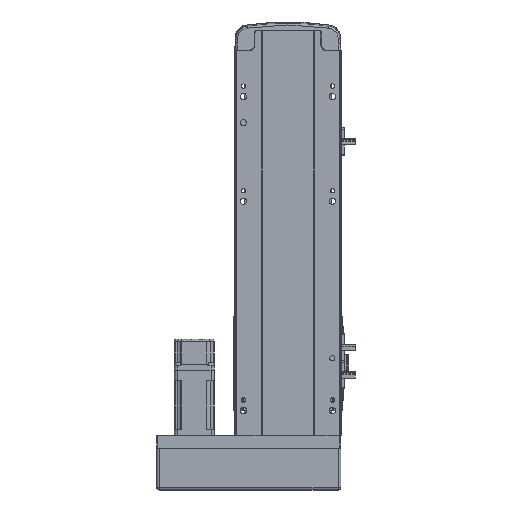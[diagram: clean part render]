
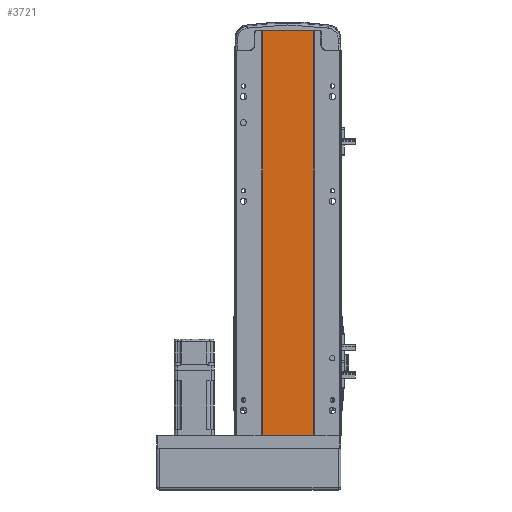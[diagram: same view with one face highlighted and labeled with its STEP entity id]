
A CAD part, front view. The second image highlights one B-rep face of the part: STEP entity #3721.
In plain terms, the highlighted planar face has unit normal (0, -1, 0).
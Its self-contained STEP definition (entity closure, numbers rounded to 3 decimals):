
#853 = CARTESIAN_POINT ( 'NONE',  ( 24.5, 2., 387. ) ) ;
#2167 = ORIENTED_EDGE ( 'NONE', *, *, #10132, .F. ) ;
#3721 = ADVANCED_FACE ( 'NONE', ( #17448 ), #49112, .F. ) ;
#7673 = CARTESIAN_POINT ( 'NONE',  ( 24.5, 2., 387. ) ) ;
#9719 = CARTESIAN_POINT ( 'NONE',  ( -24.5, 2., 387. ) ) ;
#10132 = EDGE_CURVE ( 'NONE', #32474, #38534, #20987, .T. ) ;
#12729 = VERTEX_POINT ( 'NONE', #25394 ) ;
#13832 = DIRECTION ( 'NONE',  ( 0., 1., 0. ) ) ;
#15045 = CARTESIAN_POINT ( 'NONE',  ( -24.5, 2., 387. ) ) ;
#15051 = AXIS2_PLACEMENT_3D ( 'NONE', #40145, #13832, #48523 ) ;
#16355 = DIRECTION ( 'NONE',  ( 0., 0., -1. ) ) ;
#17203 = CARTESIAN_POINT ( 'NONE',  ( -24.5, 2., 387. ) ) ;
#17448 = FACE_OUTER_BOUND ( 'NONE', #50865, .T. ) ;
#18952 = ORIENTED_EDGE ( 'NONE', *, *, #33374, .F. ) ;
#20987 = LINE ( 'NONE', #9719, #25087 ) ;
#22222 = DIRECTION ( 'NONE',  ( 1., 0., 0. ) ) ;
#25087 = VECTOR ( 'NONE', #22222, 1000. ) ;
#25394 = CARTESIAN_POINT ( 'NONE',  ( 24.5, 2., 0. ) ) ;
#26715 = EDGE_CURVE ( 'NONE', #32474, #38078, #45120, .T. ) ;
#30640 = DIRECTION ( 'NONE',  ( 1., 0., 0. ) ) ;
#31205 = VECTOR ( 'NONE', #16355, 1000. ) ;
#32474 = VERTEX_POINT ( 'NONE', #15045 ) ;
#33374 = EDGE_CURVE ( 'NONE', #38534, #12729, #35335, .T. ) ;
#35015 = VECTOR ( 'NONE', #30640, 1000. ) ;
#35335 = LINE ( 'NONE', #7673, #31205 ) ;
#38078 = VERTEX_POINT ( 'NONE', #38544 ) ;
#38534 = VERTEX_POINT ( 'NONE', #853 ) ;
#38544 = CARTESIAN_POINT ( 'NONE',  ( -24.5, 2., 0. ) ) ;
#39262 = DIRECTION ( 'NONE',  ( 0., 0., -1. ) ) ;
#40145 = CARTESIAN_POINT ( 'NONE',  ( 0., 2., 387. ) ) ;
#41866 = LINE ( 'NONE', #48149, #35015 ) ;
#42151 = ORIENTED_EDGE ( 'NONE', *, *, #55568, .T. ) ;
#45120 = LINE ( 'NONE', #17203, #53338 ) ;
#48149 = CARTESIAN_POINT ( 'NONE',  ( 0., 2., 0. ) ) ;
#48523 = DIRECTION ( 'NONE',  ( 0., 0., 1. ) ) ;
#49112 = PLANE ( 'NONE',  #15051 ) ;
#50865 = EDGE_LOOP ( 'NONE', ( #42151, #18952, #2167, #52114 ) ) ;
#52114 = ORIENTED_EDGE ( 'NONE', *, *, #26715, .T. ) ;
#53338 = VECTOR ( 'NONE', #39262, 1000. ) ;
#55568 = EDGE_CURVE ( 'NONE', #38078, #12729, #41866, .T. ) ;
